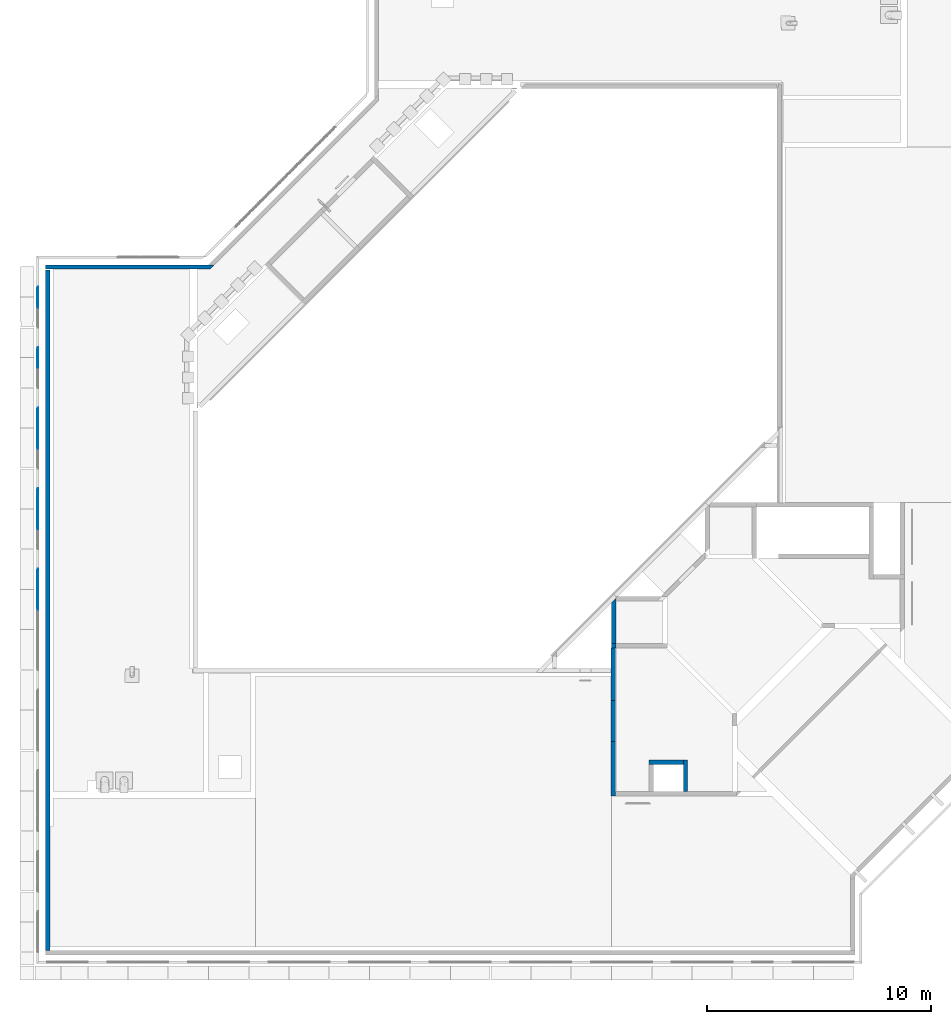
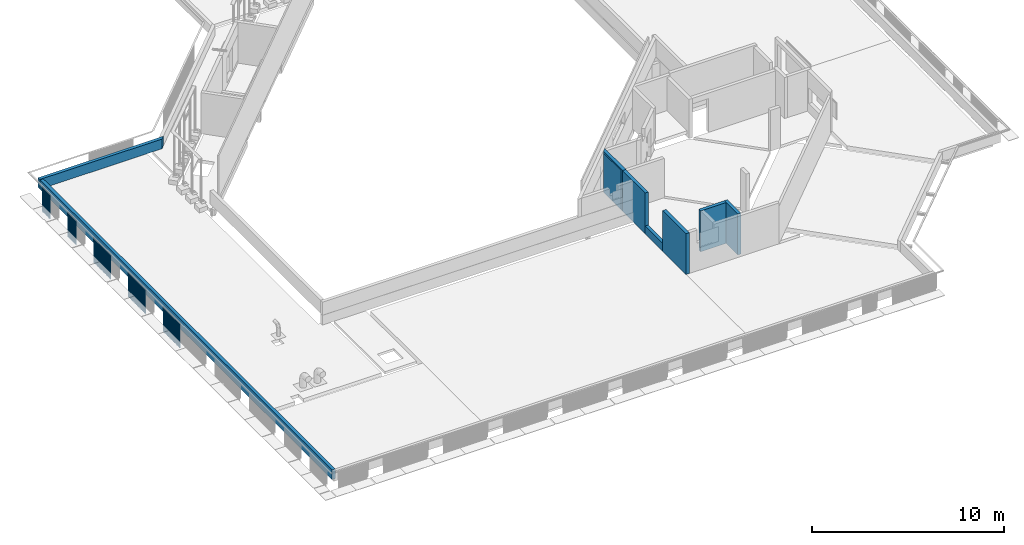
# One storey, part 10 of 37: 17 walls.
"""IFC4X3_ADD2 building model written with IfcOpenShell, lengths in millimetres."""

from ifc_helpers import new_model, si_unit, direction, frame, frame_2d, origin_with_axes, origin_2d_with_axis, place, context, subcontext, project, spatial, polyline, rectangle, outline, extrude, source, transform, mapped, material, type_object, type_shapes, element, save


model = new_model("IFC4X3_ADD2")

# Units and contexts
model_context = context("Model", 3, precision=1e-05, world=origin_with_axes(), true_north=direction((0.0, 1.0)))
body_context = subcontext(model_context, "Body", "Model", "MODEL_VIEW")
ifc_project = project(units=[si_unit("LENGTHUNIT", "METRE", prefix="MILLI"), si_unit("AREAUNIT", "SQUARE_METRE"), si_unit("VOLUMEUNIT", "CUBIC_METRE"), si_unit("PLANEANGLEUNIT", "RADIAN"), si_unit("TIMEUNIT", "SECOND"), si_unit("MASSUNIT", "GRAM")], contexts=[model_context])

# Site, building, storey
site_placement = place(None, origin_with_axes())
site = spatial("IfcSite", under=ifc_project, at=site_placement, Name="Site", CompositionType="ELEMENT")
building_placement = place(site_placement, origin_with_axes())
building = spatial("IfcBuilding", under=site, at=building_placement, Name="IFC Building Story")
storey_placement = place(building_placement, frame((0.0, 0.0, 14400.0), z_axis=(0.0, 0.0, 1.0), x_axis=(1.0, 0.0, 0.0)))
storey = spatial("IfcBuildingStorey", under=building, at=storey_placement, Name="040", Elevation=14400.0)

# Walls
ifc_material_1 = material(Name="BB_Beton_Bestaand")
wall_type_1 = type_object("IfcWallType", Name="BB_Beton_Bestaand 200", PredefinedType="NOTDEFINED", material=ifc_material_1)
wall_1_placement = place(storey_placement, origin_with_axes())
element("IfcWall", 1, at=wall_1_placement, inside=storey, type_object=wall_type_1, Name="Basic Wall:BB_XX_Wand uit beton, 200 mm", ObjectType="Basic Wall:BB_XX_Wand uit beton, 200 mm", PredefinedType="SOLIDWALL", context=body_context, shape_type="SweptSolid", body=[
    extrude(outline(polyline([(100.0, 1160.473880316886), (100.0, -1060.473880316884), (-100.0, -1060.473880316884), (-99.99999999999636, 960.4738803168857), (100.0, 1160.473880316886)])), frame((-20000.0, 14675.47388031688, -200.0), z_axis=(0.0, 0.0, 1.0), x_axis=(1.0, 0.0, 0.0)), (0.0, 0.0, 1.0), 2600.0),
])
wall_2_placement = place(storey_placement, origin_with_axes())
element("IfcWall", 2, at=wall_2_placement, inside=storey, type_object=wall_type_1, Name="Basic Wall:BB_XX_Wand uit beton, 200 mm", ObjectType="Basic Wall:BB_XX_Wand uit beton, 200 mm", PredefinedType="SOLIDWALL", context=body_context, shape_type="SweptSolid", body=[
    extrude(rectangle(XDim=2435.148809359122, YDim=199.9999999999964, at=frame_2d((0.0, 0.0), x_axis=(0.0, 1.0))), frame((-20009.9997785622, 8217.57440467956, -200.0), z_axis=(0.0, 0.0, 1.0), x_axis=(1.0, 0.0, 0.0)), (0.0, 0.0, 1.0), 2600.0),
])
wall_3_placement = place(storey_placement, origin_with_axes())
element("IfcWall", 3, at=wall_3_placement, inside=storey, type_object=wall_type_1, Name="Basic Wall:BB_XX_Wand uit beton, 200 mm", ObjectType="Basic Wall:BB_XX_Wand uit beton, 200 mm", PredefinedType="SOLIDWALL", context=body_context, shape_type="SweptSolid", body=[
    extrude(rectangle(XDim=2349.99999999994, YDim=200.0, at=frame_2d((0.0, 0.0), x_axis=(0.0, 1.0))), frame((-20010.0, 12439.99999999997, -200.0), z_axis=(0.0, 0.0, 1.0), x_axis=(1.0, 0.0, 0.0)), (0.0, 0.0, 1.0), 2600.0),
])
wall_type_2 = type_object("IfcWallType", Name="BB_Beton_Bestaand 190", PredefinedType="NOTDEFINED", material=ifc_material_1)
wall_4_placement = place(storey_placement, origin_with_axes())
element("IfcWall", 4, at=wall_4_placement, inside=storey, type_object=wall_type_2, Name="Basic Wall:BB_XX_Wand uit beton, 190 mm", ObjectType="Basic Wall:BB_XX_Wand uit beton, 190 mm", PredefinedType="SOLIDWALL", context=body_context, shape_type="SweptSolid", body=[
    extrude(rectangle(XDim=30409.8698058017, YDim=189.9999999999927, at=frame_2d((0.0, 0.0), x_axis=(0.0, 1.0))), frame((-45285.0, 15299.93490290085, -200.0), z_axis=(0.0, 0.0, 1.0), x_axis=(1.0, 0.0, 0.0)), (0.0, 0.0, 1.0), 619.999999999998),
])
wall_5_placement = place(storey_placement, origin_with_axes())
element("IfcWall", 5, at=wall_5_placement, inside=storey, type_object=wall_type_2, Name="Basic Wall:BB_XX_Wand uit beton, 190 mm", ObjectType="Basic Wall:BB_XX_Wand uit beton, 190 mm", PredefinedType="SOLIDWALL", context=body_context, shape_type="SweptSolid", body=[
    extrude(outline(polyline([(3627.110047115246, -95.0), (-3722.110047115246, -95.0), (-3722.110047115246, 95.0), (3817.110047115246, 95.0), (3627.110047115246, -95.0)])), frame((-41657.88995288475, 30629.8698058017, -200.0), z_axis=(0.0, 0.0, 1.0), x_axis=(1.0, 0.0, 0.0)), (0.0, 0.0, 1.0), 619.999999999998),
])
wall_type_3 = type_object("IfcWallType", Name="Basic Wall_BB_XX_Wand uit beton_ 200 mm5", PredefinedType="NOTDEFINED")
shared_shape = source(origin_with_axes(), body_context, "Body", "SweptSolid", [
    extrude(outline(polyline([(-960.4120004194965, -100.0000000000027), (-960.4120004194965, 99.99999999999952), (860.4120004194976, 100.0), (1060.412000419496, -99.9999999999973), (-960.4120004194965, -100.0000000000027)])), frame((960.4120004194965, 0.0, 0.0), z_axis=(0.0, 0.0, 1.0), x_axis=(1.0, 0.0, 0.0)), (0.0, 0.0, 1.0), 2500.00000000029),
    extrude(outline(polyline([(-11.02352469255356, 5.511762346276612), (5.511762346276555, 5.511762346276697), (5.511762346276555, -11.02352469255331), (-11.02352469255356, 5.511762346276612)])), frame((2100.54810238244, 94.4882376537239, 0.0), z_axis=(0.0, 0.0, 1.0), x_axis=(1.0, 0.0, 0.0)), (0.0, 0.0, 1.0), 1450.00000000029),
])
type_shapes(wall_type_3, [shared_shape])
wall_6_placement = place(storey_placement, frame((-20000.1237597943, 13815.0, -200.0), z_axis=(0.0, 0.0, 1.0), x_axis=(0.0, 1.0, 0.0)))
element("IfcWall", 6, at=wall_6_placement, inside=storey, type_object=wall_type_3, material=ifc_material_1, Name="Basic Wall:BB_XX_Wand uit beton, 200 mm", ObjectType="Basic Wall:BB_XX_Wand uit beton, 200 mm", PredefinedType="SOLIDWALL", context=body_context, shape_type="MappedRepresentation", body=[
    mapped(shared_shape, transform((0.0, 0.0, 0.0))),
])
ifc_material_2 = material(Name="BB_Metselwerk_Betonsteen")
wall_type_4 = type_object("IfcWallType", Name="BB_Metselwerk_Betonsteen 190", PredefinedType="NOTDEFINED", material=ifc_material_2)
wall_7_placement = place(storey_placement, origin_with_axes())
element("IfcWall", 7, at=wall_7_placement, inside=storey, type_object=wall_type_4, Name="Basic Wall:BB_03.09.24#03_Wand uit metselwerk, 190 mm", ObjectType="Basic Wall:BB_03.09.24#03_Wand uit metselwerk, 190 mm", PredefinedType="SOLIDWALL", context=body_context, shape_type="SweptSolid", body=[
    extrude(rectangle(XDim=1830.0, YDim=190.0, at=frame_2d((0.0, 0.0), x_axis=(0.0, 1.0))), frame((-20015.0, 10350.0, -200.0), z_axis=(0.0, 0.0, 1.0), x_axis=(1.0, 0.0, 0.0)), (0.0, 0.0, 1.0), 499.999999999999),
])
wall_8_placement = place(storey_placement, origin_with_axes())
element("IfcWall", 8, at=wall_8_placement, inside=storey, type_object=wall_type_4, Name="Basic Wall:BB_03.09.24#05_Wand uit metselwerk_EI60, 190 mm", ObjectType="Basic Wall:BB_03.09.24#05_Wand uit metselwerk_EI60, 190 mm", PredefinedType="SOLIDWALL", context=body_context, shape_type="SweptSolid", body=[
    extrude(rectangle(XDim=1400.00000000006, YDim=190.0, at=frame_2d((0.0, 0.0), x_axis=(0.0, 1.0))), frame((-16795.0, 7900.00000000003, -200.0), z_axis=(0.0, 0.0, 1.0), x_axis=(1.0, 0.0, 0.0)), (0.0, 0.0, 1.0), 2600.0),
])
wall_9_placement = place(storey_placement, origin_with_axes())
element("IfcWall", 9, at=wall_9_placement, inside=storey, type_object=wall_type_4, Name="Basic Wall:BB_03.09.24#05_Wand uit metselwerk_EI60, 190 mm", ObjectType="Basic Wall:BB_03.09.24#05_Wand uit metselwerk_EI60, 190 mm", PredefinedType="SOLIDWALL", context=body_context, shape_type="SweptSolid", body=[
    extrude(rectangle(XDim=1524.98707160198, YDim=190.0, at=origin_2d_with_axis()), frame((-17652.49353580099, 8505.0, -200.0), z_axis=(0.0, 0.0, 1.0), x_axis=(1.0, 0.0, 0.0)), (0.0, 0.0, 1.0), 2600.00000000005),
])
ifc_material_3 = material(Name="BB_Metaal_Aluminium_Puntprofiel")
wall_type_5 = type_object("IfcWallType", Name="BB_Metaal_Aluminium_Puntprofiel 1", PredefinedType="NOTDEFINED", material=ifc_material_3)
wall_10_placement = place(storey_placement, origin_with_axes())
element("IfcWall", 10, at=wall_10_placement, inside=storey, type_object=wall_type_5, Name="BB_07.10_Gevelbekleding_PuntProfiel, 900 mm, vol_GMO:900 x 1600 mm", ObjectType="BB_07.10_Gevelbekleding_PuntProfiel, 900 mm, vol_GMO:900 x 1600 mm", PredefinedType="NOTDEFINED", context=body_context, shape_type="SweptSolid", body=[
    extrude(outline(polyline([(10.06027913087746, 349.0000000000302), (10.06027913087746, 371.0000000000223), (-23.93972086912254, 405.0000000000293), (10.06027913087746, 439.0000000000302), (10.06027913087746, 461.0000000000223), (11.06027913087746, 461.4142135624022), (11.06027913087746, 438.5857864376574), (-22.52550730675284, 405.0000000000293), (11.06027913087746, 371.4142135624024), (11.06027913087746, 348.5857864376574), (-22.52550730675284, 315.0000000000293), (11.06027913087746, 281.4142135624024), (11.06027913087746, 258.5857864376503), (-22.52550730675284, 225.0000000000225), (11.06027913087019, 191.4142135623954), (11.06027913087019, 168.5857864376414), (-22.52550730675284, 135.0000000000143), (11.06027913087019, 101.4142135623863), (11.06027913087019, 78.58578643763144), (-22.52550730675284, 45.00000000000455), (11.06027913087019, 11.41421356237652), (11.06027913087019, -11.41421356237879), (-22.52550730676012, -45.00000000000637), (11.06027913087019, -78.58578643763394), (11.06027913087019, -101.4142135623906), (-22.52550730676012, -135.0000000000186), (11.06027913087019, -168.5857864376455), (11.06027913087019, -191.4142135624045), (-22.52550730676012, -225.0000000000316), (11.06027913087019, -258.5857864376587), (11.06027913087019, -281.4142135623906), (-22.52550730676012, -315.0000000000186), (11.06027913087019, -348.5857864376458), (11.06027913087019, -371.4142135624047), (-22.52550730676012, -405.0000000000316), (11.06027913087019, -438.5857864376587), (11.06027913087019, -461.4142135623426), (10.06027913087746, -460.9999999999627), (10.06027913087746, -439.0000000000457), (-23.93972086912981, -405.0000000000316), (10.06027913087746, -371.0000000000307), (10.06027913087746, -349.0000000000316), (-23.93972086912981, -315.0000000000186), (10.06027913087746, -281.0000000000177), (10.06027913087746, -259.0000000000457), (-23.93972086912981, -225.0000000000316), (10.06027913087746, -191.0000000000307), (10.06027913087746, -169.0000000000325), (-23.93972086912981, -135.0000000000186), (10.06027913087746, -101.0000000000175), (10.06027913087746, -79.00000000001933), (-23.93972086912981, -45.00000000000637), (10.06027913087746, -11.00000000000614), (10.06027913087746, 10.9999999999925), (-23.93972086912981, 45.00000000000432), (10.06027913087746, 79.00000000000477), (10.06027913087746, 101.0000000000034), (-23.93972086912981, 135.0000000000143), (10.06027913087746, 169.0000000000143), (10.06027913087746, 191.0000000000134), (-23.93972086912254, 225.0000000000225), (10.06027913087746, 259.0000000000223), (10.06027913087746, 281.0000000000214), (-23.93972086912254, 315.0000000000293), (10.06027913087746, 349.0000000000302)])), frame((-45726.06027913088, 15780.00000000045, -960.0), z_axis=(0.0, 0.0, 1.0), x_axis=(1.0, 0.0, 0.0)), (0.0, 0.0, 1.0), 1600.0),
])
wall_11_placement = place(storey_placement, origin_with_axes())
element("IfcWall", 11, at=wall_11_placement, inside=storey, type_object=wall_type_5, Name="BB_07.10_Gevelbekleding_PuntProfiel, 900 mm, vol_GMO:900 x 1600 mm", ObjectType="BB_07.10_Gevelbekleding_PuntProfiel, 900 mm, vol_GMO:900 x 1600 mm", PredefinedType="NOTDEFINED", context=body_context, shape_type="SweptSolid", body=[
    extrude(outline(polyline([(10.06027913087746, 349.0000000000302), (10.06027913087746, 371.0000000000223), (-23.93972086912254, 405.0000000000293), (10.06027913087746, 439.0000000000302), (10.06027913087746, 461.0000000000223), (11.06027913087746, 461.4142135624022), (11.06027913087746, 438.5857864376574), (-22.52550730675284, 405.0000000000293), (11.06027913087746, 371.4142135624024), (11.06027913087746, 348.5857864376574), (-22.52550730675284, 315.0000000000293), (11.06027913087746, 281.4142135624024), (11.06027913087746, 258.5857864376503), (-22.52550730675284, 225.0000000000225), (11.06027913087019, 191.4142135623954), (11.06027913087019, 168.5857864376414), (-22.52550730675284, 135.0000000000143), (11.06027913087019, 101.4142135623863), (11.06027913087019, 78.58578643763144), (-22.52550730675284, 45.00000000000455), (11.06027913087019, 11.41421356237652), (11.06027913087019, -11.41421356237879), (-22.52550730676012, -45.00000000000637), (11.06027913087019, -78.58578643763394), (11.06027913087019, -101.4142135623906), (-22.52550730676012, -135.0000000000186), (11.06027913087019, -168.5857864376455), (11.06027913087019, -191.4142135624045), (-22.52550730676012, -225.0000000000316), (11.06027913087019, -258.5857864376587), (11.06027913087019, -281.4142135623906), (-22.52550730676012, -315.0000000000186), (11.06027913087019, -348.5857864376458), (11.06027913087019, -371.4142135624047), (-22.52550730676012, -405.0000000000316), (11.06027913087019, -438.5857864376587), (11.06027913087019, -461.4142135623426), (10.06027913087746, -460.9999999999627), (10.06027913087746, -439.0000000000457), (-23.93972086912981, -405.0000000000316), (10.06027913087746, -371.0000000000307), (10.06027913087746, -349.0000000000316), (-23.93972086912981, -315.0000000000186), (10.06027913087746, -281.0000000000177), (10.06027913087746, -259.0000000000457), (-23.93972086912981, -225.0000000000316), (10.06027913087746, -191.0000000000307), (10.06027913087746, -169.0000000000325), (-23.93972086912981, -135.0000000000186), (10.06027913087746, -101.0000000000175), (10.06027913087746, -79.00000000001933), (-23.93972086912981, -45.00000000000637), (10.06027913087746, -11.00000000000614), (10.06027913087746, 10.9999999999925), (-23.93972086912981, 45.00000000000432), (10.06027913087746, 79.00000000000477), (10.06027913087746, 101.0000000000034), (-23.93972086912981, 135.0000000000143), (10.06027913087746, 169.0000000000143), (10.06027913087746, 191.0000000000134), (-23.93972086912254, 225.0000000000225), (10.06027913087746, 259.0000000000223), (10.06027913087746, 281.0000000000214), (-23.93972086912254, 315.0000000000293), (10.06027913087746, 349.0000000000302)])), frame((-45726.06027913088, 16680.00000000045, -960.0), z_axis=(0.0, 0.0, 1.0), x_axis=(1.0, 0.0, 0.0)), (0.0, 0.0, 1.0), 1600.0),
])
wall_12_placement = place(storey_placement, origin_with_axes())
element("IfcWall", 12, at=wall_12_placement, inside=storey, type_object=wall_type_5, Name="BB_07.10_Gevelbekleding_PuntProfiel, 900 mm, vol_GMO:900 x 1600 mm", ObjectType="BB_07.10_Gevelbekleding_PuntProfiel, 900 mm, vol_GMO:900 x 1600 mm", PredefinedType="NOTDEFINED", context=body_context, shape_type="SweptSolid", body=[
    extrude(outline(polyline([(10.06027913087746, 349.0000000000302), (10.06027913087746, 371.0000000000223), (-23.93972086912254, 405.0000000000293), (10.06027913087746, 439.0000000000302), (10.06027913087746, 461.0000000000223), (11.06027913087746, 461.4142135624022), (11.06027913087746, 438.5857864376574), (-22.52550730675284, 405.0000000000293), (11.06027913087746, 371.4142135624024), (11.06027913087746, 348.5857864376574), (-22.52550730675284, 315.0000000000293), (11.06027913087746, 281.4142135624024), (11.06027913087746, 258.5857864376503), (-22.52550730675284, 225.0000000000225), (11.06027913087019, 191.4142135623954), (11.06027913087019, 168.5857864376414), (-22.52550730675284, 135.0000000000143), (11.06027913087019, 101.4142135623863), (11.06027913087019, 78.58578643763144), (-22.52550730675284, 45.00000000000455), (11.06027913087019, 11.41421356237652), (11.06027913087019, -11.41421356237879), (-22.52550730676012, -45.00000000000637), (11.06027913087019, -78.58578643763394), (11.06027913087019, -101.4142135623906), (-22.52550730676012, -135.0000000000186), (11.06027913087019, -168.5857864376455), (11.06027913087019, -191.4142135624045), (-22.52550730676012, -225.0000000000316), (11.06027913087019, -258.5857864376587), (11.06027913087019, -281.4142135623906), (-22.52550730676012, -315.0000000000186), (11.06027913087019, -348.5857864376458), (11.06027913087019, -371.4142135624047), (-22.52550730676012, -405.0000000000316), (11.06027913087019, -438.5857864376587), (11.06027913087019, -461.4142135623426), (10.06027913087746, -460.9999999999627), (10.06027913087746, -439.0000000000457), (-23.93972086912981, -405.0000000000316), (10.06027913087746, -371.0000000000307), (10.06027913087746, -349.0000000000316), (-23.93972086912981, -315.0000000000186), (10.06027913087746, -281.0000000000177), (10.06027913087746, -259.0000000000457), (-23.93972086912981, -225.0000000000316), (10.06027913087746, -191.0000000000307), (10.06027913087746, -169.0000000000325), (-23.93972086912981, -135.0000000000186), (10.06027913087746, -101.0000000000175), (10.06027913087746, -79.00000000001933), (-23.93972086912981, -45.00000000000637), (10.06027913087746, -11.00000000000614), (10.06027913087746, 10.9999999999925), (-23.93972086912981, 45.00000000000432), (10.06027913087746, 79.00000000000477), (10.06027913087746, 101.0000000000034), (-23.93972086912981, 135.0000000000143), (10.06027913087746, 169.0000000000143), (10.06027913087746, 191.0000000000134), (-23.93972086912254, 225.0000000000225), (10.06027913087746, 259.0000000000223), (10.06027913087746, 281.0000000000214), (-23.93972086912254, 315.0000000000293), (10.06027913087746, 349.0000000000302)])), frame((-45726.06027913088, 19380.00000000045, -960.0), z_axis=(0.0, 0.0, 1.0), x_axis=(1.0, 0.0, 0.0)), (0.0, 0.0, 1.0), 1600.0),
])
wall_13_placement = place(storey_placement, origin_with_axes())
element("IfcWall", 13, at=wall_13_placement, inside=storey, type_object=wall_type_5, Name="BB_07.10_Gevelbekleding_PuntProfiel, 900 mm, vol_GMO:900 x 1600 mm", ObjectType="BB_07.10_Gevelbekleding_PuntProfiel, 900 mm, vol_GMO:900 x 1600 mm", PredefinedType="NOTDEFINED", context=body_context, shape_type="SweptSolid", body=[
    extrude(outline(polyline([(10.06027913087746, 349.0000000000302), (10.06027913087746, 371.0000000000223), (-23.93972086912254, 405.0000000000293), (10.06027913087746, 439.0000000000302), (10.06027913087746, 461.0000000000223), (11.06027913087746, 461.4142135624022), (11.06027913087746, 438.5857864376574), (-22.52550730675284, 405.0000000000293), (11.06027913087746, 371.4142135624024), (11.06027913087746, 348.5857864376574), (-22.52550730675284, 315.0000000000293), (11.06027913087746, 281.4142135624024), (11.06027913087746, 258.5857864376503), (-22.52550730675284, 225.0000000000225), (11.06027913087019, 191.4142135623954), (11.06027913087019, 168.5857864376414), (-22.52550730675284, 135.0000000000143), (11.06027913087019, 101.4142135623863), (11.06027913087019, 78.58578643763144), (-22.52550730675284, 45.00000000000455), (11.06027913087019, 11.41421356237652), (11.06027913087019, -11.41421356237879), (-22.52550730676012, -45.00000000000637), (11.06027913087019, -78.58578643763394), (11.06027913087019, -101.4142135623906), (-22.52550730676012, -135.0000000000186), (11.06027913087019, -168.5857864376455), (11.06027913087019, -191.4142135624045), (-22.52550730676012, -225.0000000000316), (11.06027913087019, -258.5857864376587), (11.06027913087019, -281.4142135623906), (-22.52550730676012, -315.0000000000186), (11.06027913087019, -348.5857864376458), (11.06027913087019, -371.4142135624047), (-22.52550730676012, -405.0000000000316), (11.06027913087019, -438.5857864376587), (11.06027913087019, -461.4142135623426), (10.06027913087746, -460.9999999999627), (10.06027913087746, -439.0000000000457), (-23.93972086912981, -405.0000000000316), (10.06027913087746, -371.0000000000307), (10.06027913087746, -349.0000000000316), (-23.93972086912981, -315.0000000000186), (10.06027913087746, -281.0000000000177), (10.06027913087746, -259.0000000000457), (-23.93972086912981, -225.0000000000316), (10.06027913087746, -191.0000000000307), (10.06027913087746, -169.0000000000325), (-23.93972086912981, -135.0000000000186), (10.06027913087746, -101.0000000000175), (10.06027913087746, -79.00000000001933), (-23.93972086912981, -45.00000000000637), (10.06027913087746, -11.00000000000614), (10.06027913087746, 10.9999999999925), (-23.93972086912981, 45.00000000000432), (10.06027913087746, 79.00000000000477), (10.06027913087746, 101.0000000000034), (-23.93972086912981, 135.0000000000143), (10.06027913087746, 169.0000000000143), (10.06027913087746, 191.0000000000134), (-23.93972086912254, 225.0000000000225), (10.06027913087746, 259.0000000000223), (10.06027913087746, 281.0000000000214), (-23.93972086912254, 315.0000000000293), (10.06027913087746, 349.0000000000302)])), frame((-45726.06027913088, 20280.00000000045, -960.0), z_axis=(0.0, 0.0, 1.0), x_axis=(1.0, 0.0, 0.0)), (0.0, 0.0, 1.0), 1600.0),
])
wall_14_placement = place(storey_placement, origin_with_axes())
element("IfcWall", 14, at=wall_14_placement, inside=storey, type_object=wall_type_5, Name="BB_07.10_Gevelbekleding_PuntProfiel, 900 mm, vol_GMO:900 x 1600 mm", ObjectType="BB_07.10_Gevelbekleding_PuntProfiel, 900 mm, vol_GMO:900 x 1600 mm", PredefinedType="NOTDEFINED", context=body_context, shape_type="SweptSolid", body=[
    extrude(outline(polyline([(10.06027913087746, 349.0000000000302), (10.06027913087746, 371.0000000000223), (-23.93972086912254, 405.0000000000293), (10.06027913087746, 439.0000000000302), (10.06027913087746, 461.0000000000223), (11.06027913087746, 461.4142135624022), (11.06027913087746, 438.5857864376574), (-22.52550730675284, 405.0000000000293), (11.06027913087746, 371.4142135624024), (11.06027913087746, 348.5857864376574), (-22.52550730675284, 315.0000000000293), (11.06027913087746, 281.4142135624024), (11.06027913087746, 258.5857864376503), (-22.52550730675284, 225.0000000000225), (11.06027913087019, 191.4142135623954), (11.06027913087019, 168.5857864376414), (-22.52550730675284, 135.0000000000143), (11.06027913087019, 101.4142135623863), (11.06027913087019, 78.58578643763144), (-22.52550730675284, 45.00000000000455), (11.06027913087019, 11.41421356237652), (11.06027913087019, -11.41421356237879), (-22.52550730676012, -45.00000000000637), (11.06027913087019, -78.58578643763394), (11.06027913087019, -101.4142135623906), (-22.52550730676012, -135.0000000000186), (11.06027913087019, -168.5857864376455), (11.06027913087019, -191.4142135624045), (-22.52550730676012, -225.0000000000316), (11.06027913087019, -258.5857864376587), (11.06027913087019, -281.4142135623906), (-22.52550730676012, -315.0000000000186), (11.06027913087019, -348.5857864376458), (11.06027913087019, -371.4142135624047), (-22.52550730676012, -405.0000000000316), (11.06027913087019, -438.5857864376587), (11.06027913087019, -461.4142135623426), (10.06027913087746, -460.9999999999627), (10.06027913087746, -439.0000000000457), (-23.93972086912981, -405.0000000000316), (10.06027913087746, -371.0000000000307), (10.06027913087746, -349.0000000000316), (-23.93972086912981, -315.0000000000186), (10.06027913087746, -281.0000000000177), (10.06027913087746, -259.0000000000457), (-23.93972086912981, -225.0000000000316), (10.06027913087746, -191.0000000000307), (10.06027913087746, -169.0000000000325), (-23.93972086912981, -135.0000000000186), (10.06027913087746, -101.0000000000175), (10.06027913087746, -79.00000000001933), (-23.93972086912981, -45.00000000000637), (10.06027913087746, -11.00000000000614), (10.06027913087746, 10.9999999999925), (-23.93972086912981, 45.00000000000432), (10.06027913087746, 79.00000000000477), (10.06027913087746, 101.0000000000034), (-23.93972086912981, 135.0000000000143), (10.06027913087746, 169.0000000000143), (10.06027913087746, 191.0000000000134), (-23.93972086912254, 225.0000000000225), (10.06027913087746, 259.0000000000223), (10.06027913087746, 281.0000000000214), (-23.93972086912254, 315.0000000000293), (10.06027913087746, 349.0000000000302)])), frame((-45726.06027913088, 22980.00000000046, -960.0), z_axis=(0.0, 0.0, 1.0), x_axis=(1.0, 0.0, 0.0)), (0.0, 0.0, 1.0), 1600.0),
])
wall_15_placement = place(storey_placement, origin_with_axes())
element("IfcWall", 15, at=wall_15_placement, inside=storey, type_object=wall_type_5, Name="BB_07.10_Gevelbekleding_PuntProfiel, 900 mm, vol_GMO:900 x 1600 mm", ObjectType="BB_07.10_Gevelbekleding_PuntProfiel, 900 mm, vol_GMO:900 x 1600 mm", PredefinedType="NOTDEFINED", context=body_context, shape_type="SweptSolid", body=[
    extrude(outline(polyline([(10.06027913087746, 349.0000000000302), (10.06027913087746, 371.0000000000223), (-23.93972086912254, 405.0000000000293), (10.06027913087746, 439.0000000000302), (10.06027913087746, 461.0000000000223), (11.06027913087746, 461.4142135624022), (11.06027913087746, 438.5857864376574), (-22.52550730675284, 405.0000000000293), (11.06027913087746, 371.4142135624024), (11.06027913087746, 348.5857864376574), (-22.52550730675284, 315.0000000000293), (11.06027913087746, 281.4142135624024), (11.06027913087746, 258.5857864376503), (-22.52550730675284, 225.0000000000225), (11.06027913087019, 191.4142135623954), (11.06027913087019, 168.5857864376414), (-22.52550730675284, 135.0000000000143), (11.06027913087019, 101.4142135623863), (11.06027913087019, 78.58578643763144), (-22.52550730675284, 45.00000000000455), (11.06027913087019, 11.41421356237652), (11.06027913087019, -11.41421356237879), (-22.52550730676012, -45.00000000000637), (11.06027913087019, -78.58578643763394), (11.06027913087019, -101.4142135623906), (-22.52550730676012, -135.0000000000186), (11.06027913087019, -168.5857864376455), (11.06027913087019, -191.4142135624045), (-22.52550730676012, -225.0000000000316), (11.06027913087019, -258.5857864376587), (11.06027913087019, -281.4142135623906), (-22.52550730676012, -315.0000000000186), (11.06027913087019, -348.5857864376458), (11.06027913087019, -371.4142135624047), (-22.52550730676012, -405.0000000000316), (11.06027913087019, -438.5857864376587), (11.06027913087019, -461.4142135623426), (10.06027913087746, -460.9999999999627), (10.06027913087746, -439.0000000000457), (-23.93972086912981, -405.0000000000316), (10.06027913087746, -371.0000000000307), (10.06027913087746, -349.0000000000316), (-23.93972086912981, -315.0000000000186), (10.06027913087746, -281.0000000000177), (10.06027913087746, -259.0000000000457), (-23.93972086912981, -225.0000000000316), (10.06027913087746, -191.0000000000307), (10.06027913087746, -169.0000000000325), (-23.93972086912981, -135.0000000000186), (10.06027913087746, -101.0000000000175), (10.06027913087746, -79.00000000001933), (-23.93972086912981, -45.00000000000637), (10.06027913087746, -11.00000000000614), (10.06027913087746, 10.9999999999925), (-23.93972086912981, 45.00000000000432), (10.06027913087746, 79.00000000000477), (10.06027913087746, 101.0000000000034), (-23.93972086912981, 135.0000000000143), (10.06027913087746, 169.0000000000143), (10.06027913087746, 191.0000000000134), (-23.93972086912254, 225.0000000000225), (10.06027913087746, 259.0000000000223), (10.06027913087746, 281.0000000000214), (-23.93972086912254, 315.0000000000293), (10.06027913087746, 349.0000000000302)])), frame((-45726.06027913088, 23880.00000000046, -960.0), z_axis=(0.0, 0.0, 1.0), x_axis=(1.0, 0.0, 0.0)), (0.0, 0.0, 1.0), 1600.0),
])
wall_16_placement = place(storey_placement, origin_with_axes())
element("IfcWall", 16, at=wall_16_placement, inside=storey, type_object=wall_type_5, Name="BB_07.10_Gevelbekleding_PuntProfiel, 900 mm, vol_GMO:900 x 1600 mm", ObjectType="BB_07.10_Gevelbekleding_PuntProfiel, 900 mm, vol_GMO:900 x 1600 mm", PredefinedType="NOTDEFINED", context=body_context, shape_type="SweptSolid", body=[
    extrude(outline(polyline([(10.06027913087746, 349.0000000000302), (10.06027913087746, 371.0000000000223), (-23.93972086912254, 405.0000000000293), (10.06027913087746, 439.0000000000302), (10.06027913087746, 461.0000000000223), (11.06027913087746, 461.4142135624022), (11.06027913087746, 438.5857864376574), (-22.52550730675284, 405.0000000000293), (11.06027913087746, 371.4142135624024), (11.06027913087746, 348.5857864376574), (-22.52550730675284, 315.0000000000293), (11.06027913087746, 281.4142135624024), (11.06027913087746, 258.5857864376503), (-22.52550730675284, 225.0000000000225), (11.06027913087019, 191.4142135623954), (11.06027913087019, 168.5857864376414), (-22.52550730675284, 135.0000000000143), (11.06027913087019, 101.4142135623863), (11.06027913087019, 78.58578643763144), (-22.52550730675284, 45.00000000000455), (11.06027913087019, 11.41421356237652), (11.06027913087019, -11.41421356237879), (-22.52550730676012, -45.00000000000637), (11.06027913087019, -78.58578643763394), (11.06027913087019, -101.4142135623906), (-22.52550730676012, -135.0000000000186), (11.06027913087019, -168.5857864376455), (11.06027913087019, -191.4142135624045), (-22.52550730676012, -225.0000000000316), (11.06027913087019, -258.5857864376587), (11.06027913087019, -281.4142135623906), (-22.52550730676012, -315.0000000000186), (11.06027913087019, -348.5857864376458), (11.06027913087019, -371.4142135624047), (-22.52550730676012, -405.0000000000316), (11.06027913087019, -438.5857864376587), (11.06027913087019, -461.4142135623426), (10.06027913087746, -460.9999999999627), (10.06027913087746, -439.0000000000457), (-23.93972086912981, -405.0000000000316), (10.06027913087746, -371.0000000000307), (10.06027913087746, -349.0000000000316), (-23.93972086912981, -315.0000000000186), (10.06027913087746, -281.0000000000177), (10.06027913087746, -259.0000000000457), (-23.93972086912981, -225.0000000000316), (10.06027913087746, -191.0000000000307), (10.06027913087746, -169.0000000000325), (-23.93972086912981, -135.0000000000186), (10.06027913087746, -101.0000000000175), (10.06027913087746, -79.00000000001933), (-23.93972086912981, -45.00000000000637), (10.06027913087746, -11.00000000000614), (10.06027913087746, 10.9999999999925), (-23.93972086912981, 45.00000000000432), (10.06027913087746, 79.00000000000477), (10.06027913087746, 101.0000000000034), (-23.93972086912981, 135.0000000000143), (10.06027913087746, 169.0000000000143), (10.06027913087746, 191.0000000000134), (-23.93972086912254, 225.0000000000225), (10.06027913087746, 259.0000000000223), (10.06027913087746, 281.0000000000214), (-23.93972086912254, 315.0000000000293), (10.06027913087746, 349.0000000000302)])), frame((-45726.06027913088, 26580.00000000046, -960.0), z_axis=(0.0, 0.0, 1.0), x_axis=(1.0, 0.0, 0.0)), (0.0, 0.0, 1.0), 1600.0),
])
wall_17_placement = place(storey_placement, origin_with_axes())
element("IfcWall", 17, at=wall_17_placement, inside=storey, type_object=wall_type_5, Name="BB_07.10_Gevelbekleding_PuntProfiel, 900 mm, vol_GMO:900 x 1600 mm", ObjectType="BB_07.10_Gevelbekleding_PuntProfiel, 900 mm, vol_GMO:900 x 1600 mm", PredefinedType="NOTDEFINED", context=body_context, shape_type="SweptSolid", body=[
    extrude(outline(polyline([(10.06027913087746, 349.0000000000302), (10.06027913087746, 371.0000000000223), (-23.93972086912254, 405.0000000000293), (10.06027913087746, 439.0000000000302), (10.06027913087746, 461.0000000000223), (11.06027913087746, 461.4142135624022), (11.06027913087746, 438.5857864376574), (-22.52550730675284, 405.0000000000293), (11.06027913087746, 371.4142135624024), (11.06027913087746, 348.5857864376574), (-22.52550730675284, 315.0000000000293), (11.06027913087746, 281.4142135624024), (11.06027913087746, 258.5857864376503), (-22.52550730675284, 225.0000000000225), (11.06027913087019, 191.4142135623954), (11.06027913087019, 168.5857864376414), (-22.52550730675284, 135.0000000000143), (11.06027913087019, 101.4142135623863), (11.06027913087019, 78.58578643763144), (-22.52550730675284, 45.00000000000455), (11.06027913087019, 11.41421356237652), (11.06027913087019, -11.41421356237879), (-22.52550730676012, -45.00000000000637), (11.06027913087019, -78.58578643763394), (11.06027913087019, -101.4142135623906), (-22.52550730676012, -135.0000000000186), (11.06027913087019, -168.5857864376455), (11.06027913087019, -191.4142135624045), (-22.52550730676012, -225.0000000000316), (11.06027913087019, -258.5857864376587), (11.06027913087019, -281.4142135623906), (-22.52550730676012, -315.0000000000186), (11.06027913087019, -348.5857864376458), (11.06027913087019, -371.4142135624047), (-22.52550730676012, -405.0000000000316), (11.06027913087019, -438.5857864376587), (11.06027913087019, -461.4142135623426), (10.06027913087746, -460.9999999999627), (10.06027913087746, -439.0000000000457), (-23.93972086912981, -405.0000000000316), (10.06027913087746, -371.0000000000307), (10.06027913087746, -349.0000000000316), (-23.93972086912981, -315.0000000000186), (10.06027913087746, -281.0000000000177), (10.06027913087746, -259.0000000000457), (-23.93972086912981, -225.0000000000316), (10.06027913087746, -191.0000000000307), (10.06027913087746, -169.0000000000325), (-23.93972086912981, -135.0000000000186), (10.06027913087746, -101.0000000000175), (10.06027913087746, -79.00000000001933), (-23.93972086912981, -45.00000000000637), (10.06027913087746, -11.00000000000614), (10.06027913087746, 10.9999999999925), (-23.93972086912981, 45.00000000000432), (10.06027913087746, 79.00000000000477), (10.06027913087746, 101.0000000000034), (-23.93972086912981, 135.0000000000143), (10.06027913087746, 169.0000000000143), (10.06027913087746, 191.0000000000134), (-23.93972086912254, 225.0000000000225), (10.06027913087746, 259.0000000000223), (10.06027913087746, 281.0000000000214), (-23.93972086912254, 315.0000000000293), (10.06027913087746, 349.0000000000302)])), frame((-45726.06027913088, 29280.00000000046, -960.0), z_axis=(0.0, 0.0, 1.0), x_axis=(1.0, 0.0, 0.0)), (0.0, 0.0, 1.0), 1600.0),
])

save(model, "model.ifc")
